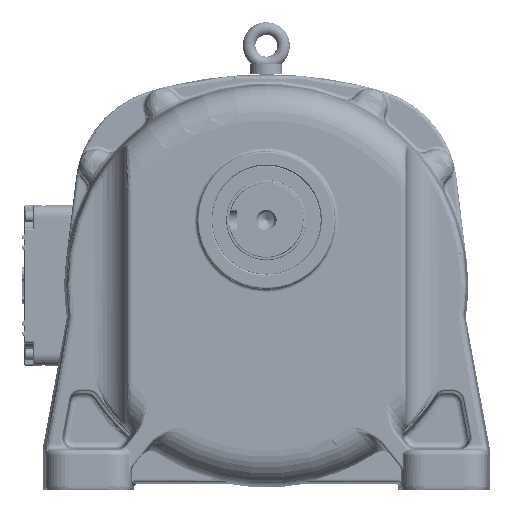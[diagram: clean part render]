
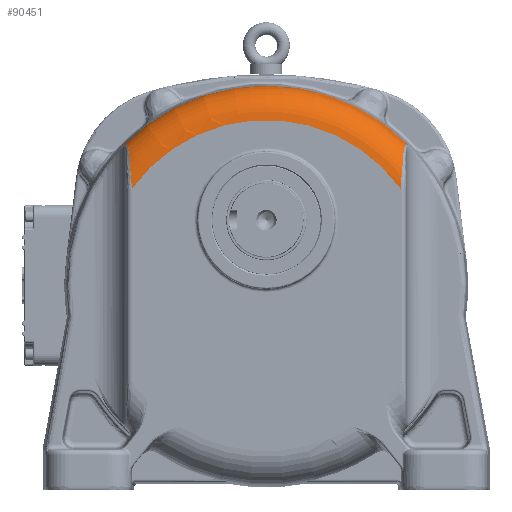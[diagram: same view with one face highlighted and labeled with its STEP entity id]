
A CAD part, front view. The second image highlights one B-rep face of the part: STEP entity #90451.
In plain terms, the highlighted toroidal (fillet/blend) face has major radius 144.309 mm and minor radius 30 mm.
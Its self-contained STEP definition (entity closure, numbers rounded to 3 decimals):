
#3443=TOROIDAL_SURFACE('',#98527,144.309,30.);
#8233=FACE_OUTER_BOUND('',#13819,.T.);
#13819=EDGE_LOOP('',(#69759,#69760,#69761,#69762,#69763,#69764));
#19093=CIRCLE('',#98006,144.309);
#19402=CIRCLE('',#98528,174.308);
#31953=B_SPLINE_CURVE_WITH_KNOTS('',3,(#195754,#195755,#195756,#195757,
#195758,#195759,#195760,#195761),.UNSPECIFIED.,.F.,.F.,(4,1,1,1,1,4),(0.,
0.574,0.862,1.436,1.723,2.011),
 .UNSPECIFIED.);
#31954=B_SPLINE_CURVE_WITH_KNOTS('',3,(#195794,#195795,#195796,#195797,
#195798),.UNSPECIFIED.,.F.,.F.,(4,1,4),(-3.01,-1.29,
0.),.UNSPECIFIED.);
#31966=B_SPLINE_CURVE_WITH_KNOTS('',3,(#196181,#196182,#196183,#196184,
#196185,#196186),.UNSPECIFIED.,.F.,.F.,(4,1,1,4),(-3.01,-2.15,
-1.29,0.),.UNSPECIFIED.);
#31968=B_SPLINE_CURVE_WITH_KNOTS('',3,(#196236,#196237,#196238,#196239,
#196240,#196241,#196242,#196243),.UNSPECIFIED.,.F.,.F.,(4,1,1,1,1,4),(-2.011,
-1.723,-1.436,-0.862,-0.574,
0.),.UNSPECIFIED.);
#37560=VERTEX_POINT('',#189410);
#37561=VERTEX_POINT('',#189412);
#37983=VERTEX_POINT('',#195687);
#37985=VERTEX_POINT('',#195752);
#37998=VERTEX_POINT('',#196179);
#38000=VERTEX_POINT('',#196234);
#48400=EDGE_CURVE('',#37561,#37560,#19093,.T.);
#49102=EDGE_CURVE('',#37985,#37983,#31953,.T.);
#49104=EDGE_CURVE('',#37561,#37985,#31954,.T.);
#49127=EDGE_CURVE('',#37998,#37560,#31966,.T.);
#49130=EDGE_CURVE('',#38000,#37998,#31968,.T.);
#49136=EDGE_CURVE('',#38000,#37983,#19402,.T.);
#69759=ORIENTED_EDGE('',*,*,#49104,.F.);
#69760=ORIENTED_EDGE('',*,*,#48400,.T.);
#69761=ORIENTED_EDGE('',*,*,#49127,.F.);
#69762=ORIENTED_EDGE('',*,*,#49130,.F.);
#69763=ORIENTED_EDGE('',*,*,#49136,.T.);
#69764=ORIENTED_EDGE('',*,*,#49102,.F.);
#90451=ADVANCED_FACE('',(#8233),#3443,.T.);
#98006=AXIS2_PLACEMENT_3D('',#189413,#113934,#113935);
#98527=AXIS2_PLACEMENT_3D('',#196320,#115158,#115159);
#98528=AXIS2_PLACEMENT_3D('',#196321,#115160,#115161);
#113934=DIRECTION('center_axis',(0.,1.,0.));
#113935=DIRECTION('ref_axis',(-1.,0.,0.));
#115158=DIRECTION('center_axis',(0.,1.,0.));
#115159=DIRECTION('ref_axis',(0.,0.,1.));
#115160=DIRECTION('center_axis',(0.,-1.,0.));
#115161=DIRECTION('ref_axis',(-1.,0.,0.));
#189410=CARTESIAN_POINT('',(104.309,-19.258,82.726));
#189412=CARTESIAN_POINT('',(-129.691,-19.258,82.726));
#189413=CARTESIAN_POINT('Origin',(-12.691,-19.258,-1.75));
#195687=CARTESIAN_POINT('',(-137.843,10.431,119.577));
#195752=CARTESIAN_POINT('',(-132.328,-9.658,113.768));
#195754=CARTESIAN_POINT('Ctrl Pts',(-132.328,-9.658,
113.768));
#195755=CARTESIAN_POINT('Ctrl Pts',(-132.464,-8.28,
115.467));
#195756=CARTESIAN_POINT('Ctrl Pts',(-132.747,-5.886,
117.822));
#195757=CARTESIAN_POINT('Ctrl Pts',(-133.662,-0.986,
120.65));
#195758=CARTESIAN_POINT('Ctrl Pts',(-134.896,3.515,
121.518));
#195759=CARTESIAN_POINT('Ctrl Pts',(-136.522,7.679,
120.773));
#195760=CARTESIAN_POINT('Ctrl Pts',(-137.396,9.55,
120.024));
#195761=CARTESIAN_POINT('Ctrl Pts',(-137.843,10.431,
119.577));
#195794=CARTESIAN_POINT('Ctrl Pts',(-129.691,-19.258,
82.726));
#195795=CARTESIAN_POINT('Ctrl Pts',(-130.235,-19.258,
88.852));
#195796=CARTESIAN_POINT('Ctrl Pts',(-131.187,-17.871,
99.762));
#195797=CARTESIAN_POINT('Ctrl Pts',(-132.023,-12.751,
109.954));
#195798=CARTESIAN_POINT('Ctrl Pts',(-132.328,-9.658,
113.768));
#196179=CARTESIAN_POINT('',(106.946,-9.658,113.768));
#196181=CARTESIAN_POINT('Ctrl Pts',(106.946,-9.658,
113.768));
#196182=CARTESIAN_POINT('Ctrl Pts',(106.743,-11.72,
111.226));
#196183=CARTESIAN_POINT('Ctrl Pts',(106.288,-15.051,105.632));
#196184=CARTESIAN_POINT('Ctrl Pts',(105.397,-18.506,95.069));
#196185=CARTESIAN_POINT('Ctrl Pts',(104.717,-19.258,
87.321));
#196186=CARTESIAN_POINT('Ctrl Pts',(104.309,-19.258,
82.726));
#196234=CARTESIAN_POINT('',(112.46,10.431,119.577));
#196236=CARTESIAN_POINT('Ctrl Pts',(112.46,10.431,119.577));
#196237=CARTESIAN_POINT('Ctrl Pts',(112.014,9.55,120.024));
#196238=CARTESIAN_POINT('Ctrl Pts',(111.14,7.678,120.774));
#196239=CARTESIAN_POINT('Ctrl Pts',(109.514,3.515,121.518));
#196240=CARTESIAN_POINT('Ctrl Pts',(108.279,-0.986,
120.65));
#196241=CARTESIAN_POINT('Ctrl Pts',(107.364,-5.886,
117.822));
#196242=CARTESIAN_POINT('Ctrl Pts',(107.082,-8.28,
115.467));
#196243=CARTESIAN_POINT('Ctrl Pts',(106.946,-9.658,113.768));
#196320=CARTESIAN_POINT('Origin',(-12.691,10.742,-1.75));
#196321=CARTESIAN_POINT('Origin',(-12.691,10.431,-1.75));
